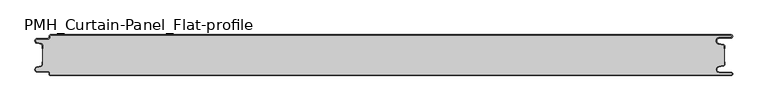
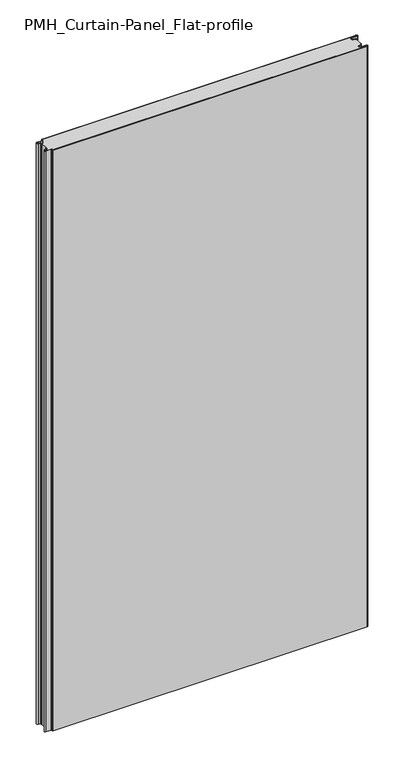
"""IFC4 building model written with IfcOpenShell, lengths in millimetres: plate geometry, PMH_Curtain-Panel_Flat-profile : ACH_PMH_Stone-wool-Panel_60M."""

from ifc_helpers import new_model, si_unit, point, frame, frame_2d, origin, origin_with_axes, place, context, project, spatial, polyline, circle_curve, trimmed, segment, composite_curve, outline, extrude, source, transform, mapped, element, save
from ifc_brep_helpers import plane_surface, cylinder_surface, revolved_surface, advanced_brep


def pmh_curtain_panel_flat_profile_a0c31ac1(model_context):
    return source(origin(), model_context, "Body", "SolidModel", [
        advanced_brep(
        [(508.1, 0.0, 1945.7507136), (-487.4, 0.0, 1945.7507136), (-489.4, -2.0, 1945.7507136), (-489.4, -3.4, 1945.7507136), (-491.4, -5.4, 1945.7507136), (-506.9, -5.4, 1945.7507136), (-507.7098239, -12.5077322, 1945.7507136), (-501.5500979, -13.929817, 1945.7507136), (-500.0, -15.878557, 1945.7507136), (-500.0, -20.0, 1945.7507136), (-499.2, -20.0, 1945.7507136), (-499.2, -15.878557, 1945.7507136), (-501.370137, -13.1503208, 1945.7507136), (-507.529863, -11.728236, 1945.7507136), (-506.9, -6.2, 1945.7507136), (-491.4, -6.2, 1945.7507136), (-488.6, -3.4, 1945.7507136), (-488.6, -2.0, 1945.7507136), (-487.4, -0.8, 1945.7507136), (508.1, -0.8, 1945.7507136), (508.1, -4.2, 1945.7507136), (491.1, -4.2, 1945.7507136), (490.2664884, -13.7270771, 1945.7507136), (496.7125669, -14.8636953, 1945.7507136), (498.2, -16.6363492, 1945.7507136), (498.2, -20.0, 1945.7507136), (499.0, -20.0, 1945.7507136), (499.0, -16.6363492, 1945.7507136), (496.8514855, -14.0758491, 1945.7507136), (490.405407, -12.939231, 1945.7507136), (491.1, -5.0, 1945.7507136), (508.1, -5.0, 1945.7507136), (510.6, -2.5000002, 1945.7507136), (-487.4, 0.0, 0.0), (508.1, 0.0, 0.0), (510.6, -2.4999998, 0.0), (508.1, -5.0, 0.0), (491.1, -5.0, 0.0), (490.405407, -12.939231, 0.0), (496.8514855, -14.0758491, 0.0), (499.0, -16.6363492, 0.0), (499.0, -20.0, 0.0), (498.2, -20.0, 0.0), (498.2, -16.6363492, 0.0), (496.7125669, -14.8636953, 0.0), (490.2664884, -13.7270771, 0.0), (491.1, -4.2, 0.0), (508.1, -4.2, 0.0), (508.1, -0.8, 0.0), (-487.4, -0.8, 0.0), (-488.6, -2.0, 0.0), (-488.6, -3.4, 0.0), (-491.4, -6.2, 0.0), (-506.9, -6.2, 0.0), (-507.529863, -11.7282362, 0.0), (-501.370137, -13.150321, 0.0), (-499.2, -15.878557, 0.0), (-499.2, -20.0, 0.0), (-500.0, -20.0, 0.0), (-500.0, -15.878557, 0.0), (-501.5500978, -13.9298169, 0.0), (-507.7098239, -12.507732, 0.0), (-506.9, -5.4, 0.0), (-491.4, -5.4, 0.0), (-489.4, -3.4, 0.0), (-489.4, -2.0, 0.0)],
        [
            (0, 1),
            (1, 2, circle_curve(frame((-487.4, -2.0, 1945.7507136), z_axis=(0.0, 0.0, 1.0), x_axis=(1.0, 0.0, 0.0)), 2.0)),
            (2, 3),
            (3, 4, circle_curve(frame((-491.4, -3.4, 1945.7507136), z_axis=(0.0, 0.0, -1.0), x_axis=(1.0, 0.0, 0.0)), 2.0)),
            (4, 5),
            (5, 6, circle_curve(frame((-506.9, -9.0, 1945.7507136), z_axis=(0.0, 0.0, 1.0), x_axis=(1.0, 0.0, 0.0)), 3.6)),
            (6, 7),
            (7, 8, circle_curve(frame((-502.0, -15.878557, 1945.7507136), z_axis=(0.0, 0.0, -1.0), x_axis=(1.0, 0.0, 0.0)), 2.0)),
            (8, 9),
            (9, 10),
            (10, 11),
            (11, 12, circle_curve(frame((-502.0, -15.878557, 1945.7507136), z_axis=(0.0, 0.0, 1.0), x_axis=(1.0, 0.0, 0.0)), 2.8)),
            (12, 13),
            (13, 14, circle_curve(frame((-506.9, -9.0, 1945.7507136), z_axis=(0.0, 0.0, -1.0), x_axis=(1.0, 0.0, 0.0)), 2.8)),
            (14, 15),
            (15, 16, circle_curve(frame((-491.4, -3.4, 1945.7507136), z_axis=(0.0, 0.0, 1.0), x_axis=(1.0, 0.0, 0.0)), 2.8)),
            (16, 17),
            (17, 18, circle_curve(frame((-487.4, -2.0, 1945.7507136), z_axis=(0.0, 0.0, -1.0), x_axis=(1.0, 0.0, 0.0)), 1.2)),
            (18, 19),
            (19, 20, circle_curve(frame((508.1, -2.5, 1945.7507136), z_axis=(0.0, 0.0, -1.0), x_axis=(1.0, 0.0, 0.0)), 1.7)),
            (20, 21),
            (21, 22, circle_curve(frame((491.1, -9.0, 1945.7507136), z_axis=(0.0, 0.0, 1.0), x_axis=(1.0, 0.0, 0.0)), 4.8)),
            (22, 23),
            (23, 24, circle_curve(frame((496.4, -16.6363492, 1945.7507136), z_axis=(0.0, 0.0, -1.0), x_axis=(1.0, 0.0, 0.0)), 1.8)),
            (24, 25),
            (25, 26),
            (26, 27),
            (27, 28, circle_curve(frame((496.4, -16.6363492, 1945.7507136), z_axis=(0.0, 0.0, 1.0), x_axis=(1.0, 0.0, 0.0)), 2.6)),
            (28, 29),
            (29, 30, circle_curve(frame((491.1, -9.0, 1945.7507136), z_axis=(0.0, 0.0, -1.0), x_axis=(1.0, 0.0, 0.0)), 4.0)),
            (30, 31),
            (31, 32, circle_curve(frame((508.1, -2.5, 1945.7507136), z_axis=(0.0, 0.0, 1.0), x_axis=(1.0, 0.0, 0.0)), 2.5)),
            (32, 0, circle_curve(frame((508.1, -2.5, 1945.7507136), z_axis=(0.0, 0.0, 1.0), x_axis=(1.0, 0.0, 0.0)), 2.5)),
            (33, 34),
            (34, 35, circle_curve(frame((508.1, -2.5, 0.0), z_axis=(0.0, 0.0, -1.0), x_axis=(1.0, 0.0, 0.0)), 2.5)),
            (35, 36, circle_curve(frame((508.1, -2.5, 0.0), z_axis=(0.0, 0.0, -1.0), x_axis=(1.0, 0.0, 0.0)), 2.5)),
            (36, 37),
            (37, 38, circle_curve(frame((491.1, -9.0, 0.0), z_axis=(0.0, 0.0, 1.0), x_axis=(1.0, 0.0, 0.0)), 4.0)),
            (38, 39),
            (39, 40, circle_curve(frame((496.4, -16.6363492, 0.0), z_axis=(0.0, 0.0, -1.0), x_axis=(1.0, 0.0, 0.0)), 2.6)),
            (40, 41),
            (41, 42),
            (42, 43),
            (43, 44, circle_curve(frame((496.4, -16.6363492, 0.0), z_axis=(0.0, 0.0, 1.0), x_axis=(1.0, 0.0, 0.0)), 1.8)),
            (44, 45),
            (45, 46, circle_curve(frame((491.1, -9.0, 0.0), z_axis=(0.0, 0.0, -1.0), x_axis=(1.0, 0.0, 0.0)), 4.8)),
            (46, 47),
            (47, 48, circle_curve(frame((508.1, -2.5, 0.0), z_axis=(0.0, 0.0, 1.0), x_axis=(1.0, 0.0, 0.0)), 1.7)),
            (48, 49),
            (49, 50, circle_curve(frame((-487.4, -2.0, 0.0), z_axis=(0.0, 0.0, 1.0), x_axis=(1.0, 0.0, 0.0)), 1.2)),
            (50, 51),
            (51, 52, circle_curve(frame((-491.4, -3.4, 0.0), z_axis=(0.0, 0.0, -1.0), x_axis=(1.0, 0.0, 0.0)), 2.8)),
            (52, 53),
            (53, 54, circle_curve(frame((-506.9, -9.0, 0.0), z_axis=(0.0, 0.0, 1.0), x_axis=(1.0, 0.0, 0.0)), 2.8)),
            (54, 55),
            (55, 56, circle_curve(frame((-502.0, -15.878557, 0.0), z_axis=(0.0, 0.0, -1.0), x_axis=(1.0, 0.0, 0.0)), 2.8)),
            (56, 57),
            (57, 58),
            (58, 59),
            (59, 60, circle_curve(frame((-502.0, -15.878557, 0.0), z_axis=(0.0, 0.0, 1.0), x_axis=(1.0, 0.0, 0.0)), 2.0)),
            (60, 61),
            (61, 62, circle_curve(frame((-506.9, -9.0, 0.0), z_axis=(0.0, 0.0, -1.0), x_axis=(1.0, 0.0, 0.0)), 3.6)),
            (62, 63),
            (63, 64, circle_curve(frame((-491.4, -3.4, 0.0), z_axis=(0.0, 0.0, 1.0), x_axis=(1.0, 0.0, 0.0)), 2.0)),
            (64, 65),
            (65, 33, circle_curve(frame((-487.4, -2.0, 0.0), z_axis=(0.0, 0.0, -1.0), x_axis=(1.0, 0.0, 0.0)), 2.0)),
            (1, 33),
            (65, 2),
            (64, 3),
            (63, 4),
            (62, 5),
            (61, 6),
            (60, 7),
            (59, 8),
            (58, 9),
            (57, 10),
            (56, 11),
            (55, 12),
            (54, 13),
            (53, 14),
            (52, 15),
            (51, 16),
            (50, 17),
            (49, 18),
            (48, 19),
            (47, 20),
            (46, 21),
            (45, 22),
            (44, 23),
            (43, 24),
            (42, 25),
            (41, 26),
            (40, 27),
            (39, 28),
            (38, 29),
            (37, 30),
            (36, 31),
            (34, 0),
        ],
        [
            plane_surface(frame((-500.0, 0.0, 1945.7507136), z_axis=(0.0, 0.0, 1.0), x_axis=(0.0, 1.0, 0.0))),
            plane_surface(frame((-500.0, 0.0, 0.0), z_axis=(0.0, 0.0, -1.0), x_axis=(0.0, 1.0, 0.0))),
            cylinder_surface(frame((-487.4, -2.0, 1945.7507136), z_axis=(0.0, 0.0, 1.0), x_axis=(1.0, 0.0, 0.0)), 2.0),
            plane_surface(frame((-489.4, -2.0, 1945.7507136), z_axis=(-1.0, 0.0, 0.0), x_axis=(0.0, 0.0, -1.0))),
            revolved_surface(polyline([(-489.4, -3.4, 0.0), (-489.4, -3.4, 1945.7507136)]), (-491.4, -3.4, 1945.7507136), (0.0, 0.0, -1.0)),
            plane_surface(frame((-491.4, -5.4, 1945.7507136), z_axis=(0.0, 1.0, 0.0), x_axis=(0.0, 0.0, -1.0))),
            cylinder_surface(frame((-506.9, -9.0, 1945.7507136), z_axis=(0.0, 0.0, 1.0), x_axis=(1.0, 0.0, 0.0)), 3.6),
            plane_surface(frame((-507.7098239, -12.507732, 1945.7507136), z_axis=(-0.2249510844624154, -0.9743700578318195, 0.0), x_axis=(0.0, 0.0, -1.0))),
            revolved_surface(polyline([(-500.0, -15.878557, 0.0), (-500.0, -15.878557, 1945.7507136)]), (-502.0, -15.878557, 1945.7507136), (0.0, 0.0, -1.0)),
            plane_surface(frame((-500.0, -15.878557, 1945.7507136), z_axis=(-1.0, 0.0, 0.0), x_axis=(0.0, 0.0, -1.0))),
            plane_surface(frame((-500.0, -20.0, 1945.7507136), z_axis=(0.0, -1.0, 0.0), x_axis=(0.0, 0.0, -1.0))),
            plane_surface(frame((-499.2, -20.0, 1945.7507136), z_axis=(1.0, 0.0, 0.0), x_axis=(0.0, 0.0, -1.0))),
            cylinder_surface(frame((-502.0, -15.878557, 1945.7507136), z_axis=(0.0, 0.0, 1.0), x_axis=(1.0, 0.0, 0.0)), 2.8),
            plane_surface(frame((-501.370137, -13.150321, 1945.7507136), z_axis=(0.22495108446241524, 0.9743700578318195, 0.0), x_axis=(0.0, 0.0, -1.0))),
            revolved_surface(polyline([(-504.09999999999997, -9.0, 0.0), (-504.09999999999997, -9.0, 1945.7507136)]), (-506.9, -9.0, 1945.7507136), (0.0, 0.0, -1.0)),
            plane_surface(frame((-506.9, -6.2, 1945.7507136), z_axis=(0.0, -1.0, 0.0), x_axis=(0.0, 0.0, -1.0))),
            cylinder_surface(frame((-491.4, -3.4, 1945.7507136), z_axis=(0.0, 0.0, 1.0), x_axis=(1.0, 0.0, 0.0)), 2.8),
            plane_surface(frame((-488.6, -3.4, 1945.7507136), z_axis=(1.0, 0.0, 0.0), x_axis=(0.0, 0.0, -1.0))),
            revolved_surface(polyline([(-486.2, -2.0, 0.0), (-486.2, -2.0, 1945.7507136)]), (-487.4, -2.0, 1945.7507136), (0.0, 0.0, -1.0)),
            plane_surface(frame((-487.4, -0.8, 1945.7507136), z_axis=(0.0, -1.0, 0.0), x_axis=(0.0, 0.0, -1.0))),
            revolved_surface(polyline([(509.8, -2.5, 0.0), (509.8, -2.5, 1945.7507136)]), (508.1, -2.5, 1945.7507136), (0.0, 0.0, -1.0)),
            plane_surface(frame((508.1, -4.2, 1945.7507136), z_axis=(0.0, 1.0, 0.0), x_axis=(0.0, 0.0, -1.0))),
            cylinder_surface(frame((491.1, -9.0, 1945.7507136), z_axis=(0.0, 0.0, 1.0), x_axis=(1.0, 0.0, 0.0)), 4.8),
            plane_surface(frame((490.2664884, -13.7270771, 1945.7507136), z_axis=(-0.17364826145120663, -0.984807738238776, 0.0), x_axis=(0.0, 0.0, -1.0))),
            revolved_surface(polyline([(498.2, -16.6363492, 0.0), (498.2, -16.6363492, 1945.7507136)]), (496.4, -16.6363492, 1945.7507136), (0.0, 0.0, -1.0)),
            plane_surface(frame((498.2, -16.6363492, 1945.7507136), z_axis=(-1.0, 0.0, 0.0), x_axis=(0.0, 0.0, -1.0))),
            plane_surface(frame((498.2, -20.0, 1945.7507136), z_axis=(0.0, -1.0, 0.0), x_axis=(0.0, 0.0, -1.0))),
            plane_surface(frame((499.0, -20.0, 1945.7507136), z_axis=(1.0, 0.0, 0.0), x_axis=(0.0, 0.0, -1.0))),
            cylinder_surface(frame((496.4, -16.6363492, 1945.7507136), z_axis=(0.0, 0.0, 1.0), x_axis=(1.0, 0.0, 0.0)), 2.6),
            plane_surface(frame((496.8514855, -14.0758491, 1945.7507136), z_axis=(0.17364826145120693, 0.9848077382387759, 0.0), x_axis=(0.0, 0.0, -1.0))),
            revolved_surface(polyline([(495.1, -9.0, 0.0), (495.1, -9.0, 1945.7507136)]), (491.1, -9.0, 1945.7507136), (0.0, 0.0, -1.0)),
            plane_surface(frame((491.1, -5.0, 1945.7507136), z_axis=(0.0, -1.0, 0.0), x_axis=(0.0, 0.0, -1.0))),
            cylinder_surface(frame((508.1, -2.5, 1945.7507136), z_axis=(0.0, 0.0, 1.0), x_axis=(1.0, 0.0, 0.0)), 2.5),
            plane_surface(frame((490.5783588, 0.0, 1945.7507136), z_axis=(0.0, 1.0, 0.0), x_axis=(0.0, 0.0, -1.0))),
        ],
        [
            (0, [[1, 2, 3, 4, 5, 6, 7, 8, 9, 10, 11, 12, 13, 14, 15, 16, 17, 18, 19, 20, 21, 22, 23, 24, 25, 26, 27, 28, 29, 30, 31, 32, 33]]),
            (1, [[34, 35, 36, 37, 38, 39, 40, 41, 42, 43, 44, 45, 46, 47, 48, 49, 50, 51, 52, 53, 54, 55, 56, 57, 58, 59, 60, 61, 62, 63, 64, 65, 66]]),
            (2, [[-2, 67, -66, 68]]),
            (3, [[-3, -68, -65, 69]]),
            (4, [[-4, -69, -64, 70]]),
            (5, [[-5, -70, -63, 71]]),
            (6, [[-6, -71, -62, 72]]),
            (7, [[-7, -72, -61, 73]]),
            (8, [[-8, -73, -60, 74]]),
            (9, [[-9, -74, -59, 75]]),
            (10, [[-10, -75, -58, 76]]),
            (11, [[-11, -76, -57, 77]]),
            (12, [[-12, -77, -56, 78]]),
            (13, [[-13, -78, -55, 79]]),
            (14, [[-14, -79, -54, 80]]),
            (15, [[-15, -80, -53, 81]]),
            (16, [[-16, -81, -52, 82]]),
            (17, [[-17, -82, -51, 83]]),
            (18, [[-18, -83, -50, 84]]),
            (19, [[-19, -84, -49, 85]]),
            (20, [[-20, -85, -48, 86]]),
            (21, [[-21, -86, -47, 87]]),
            (22, [[-22, -87, -46, 88]]),
            (23, [[-23, -88, -45, 89]]),
            (24, [[-24, -89, -44, 90]]),
            (25, [[-25, -90, -43, 91]]),
            (26, [[-26, -91, -42, 92]]),
            (27, [[-27, -92, -41, 93]]),
            (28, [[-28, -93, -40, 94]]),
            (29, [[-29, -94, -39, 95]]),
            (30, [[-30, -95, -38, 96]]),
            (31, [[-31, -96, -37, 97]]),
            (32, [[-97, -36, -35, 98, -33, -32]]),
            (33, [[-1, -98, -34, -67]]),
        ],
    ),
        extrude(outline(composite_curve([segment(polyline([(-499.2, -44.1214426), (-499.2, -15.8785573)]), True, "CONTINUOUS"), segment(trimmed(circle_curve(frame_2d((-502.0, -15.8785573)), 2.8), [point((-499.2, -15.8785573))], [point((-501.370137, -13.1503212))], True, "CARTESIAN"), True, "CONTINUOUS"), segment(polyline([(-501.370137, -13.1503212), (-507.5298631, -11.7282362)]), True, "CONTINUOUS"), segment(trimmed(circle_curve(frame_2d((-506.9, -9.0)), 2.8), [point((-507.5298631, -11.7282362))], [point((-506.9, -6.2))], False, "CARTESIAN"), True, "CONTINUOUS"), segment(polyline([(-506.9, -6.2), (-491.4000001, -6.2)]), True, "CONTINUOUS"), segment(trimmed(circle_curve(frame_2d((-491.4000001, -3.4)), 2.8), [point((-491.4000001, -6.2))], [point((-488.6000001, -3.4))], True, "CARTESIAN"), True, "CONTINUOUS"), segment(polyline([(-488.6000001, -3.4), (-488.6000001, -2.0)]), True, "CONTINUOUS"), segment(trimmed(circle_curve(frame_2d((-487.4000001, -2.0)), 1.2), [point((-488.6000001, -2.0))], [point((-487.4000001, -0.8))], False, "CARTESIAN"), True, "CONTINUOUS"), segment(polyline([(-487.4000001, -0.8), (508.1, -0.8)]), True, "CONTINUOUS"), segment(trimmed(circle_curve(frame_2d((508.1, -2.5)), 1.7), [point((508.1, -0.8))], [point((508.1, -4.2))], False, "CARTESIAN"), True, "CONTINUOUS"), segment(polyline([(508.1, -4.2), (491.1, -4.2)]), True, "CONTINUOUS"), segment(trimmed(circle_curve(frame_2d((491.1, -9.0)), 4.8), [point((491.1, -4.2))], [point((490.2664883, -13.7270771))], True, "CARTESIAN"), True, "CONTINUOUS"), segment(polyline([(490.2664883, -13.7270771), (496.7125668, -14.8636953)]), True, "CONTINUOUS"), segment(trimmed(circle_curve(frame_2d((496.4, -16.6363492)), 1.8), [point((496.7125668, -14.8636953))], [point((498.2, -16.6363492))], False, "CARTESIAN"), True, "CONTINUOUS"), segment(polyline([(498.2, -16.6363492), (498.2, -43.3636508)]), True, "CONTINUOUS"), segment(trimmed(circle_curve(frame_2d((496.4, -43.3636508)), 1.8), [point((498.2, -43.3636508))], [point((496.7125668, -45.1363047))], False, "CARTESIAN"), True, "CONTINUOUS"), segment(polyline([(496.7125668, -45.1363047), (490.2664883, -46.2729229)]), True, "CONTINUOUS"), segment(trimmed(circle_curve(frame_2d((491.1, -51.0)), 4.8), [point((490.2664883, -46.2729229))], [point((491.1, -55.8))], True, "CARTESIAN"), True, "CONTINUOUS"), segment(polyline([(491.1, -55.8), (508.1, -55.8)]), True, "CONTINUOUS"), segment(trimmed(circle_curve(frame_2d((508.1, -57.5)), 1.7), [point((508.1, -55.8))], [point((508.1, -59.2))], False, "CARTESIAN"), True, "CONTINUOUS"), segment(polyline([(508.1, -59.2), (-487.4000001, -59.2)]), True, "CONTINUOUS"), segment(trimmed(circle_curve(frame_2d((-487.4000001, -58.0)), 1.2), [point((-487.4000001, -59.2))], [point((-488.6000001, -58.0))], False, "CARTESIAN"), True, "CONTINUOUS"), segment(polyline([(-488.6000001, -58.0), (-488.6000001, -56.6)]), True, "CONTINUOUS"), segment(trimmed(circle_curve(frame_2d((-491.4000001, -56.6)), 2.8), [point((-488.6000001, -56.6))], [point((-491.4000001, -53.8))], True, "CARTESIAN"), True, "CONTINUOUS"), segment(polyline([(-491.4000001, -53.8), (-506.9, -53.8)]), True, "CONTINUOUS"), segment(trimmed(circle_curve(frame_2d((-506.9, -51.0)), 2.8), [point((-506.9, -53.8))], [point((-507.5298631, -48.2717638))], False, "CARTESIAN"), True, "CONTINUOUS"), segment(polyline([(-507.5298631, -48.2717638), (-501.370137, -46.8496788)]), True, "CONTINUOUS"), segment(trimmed(circle_curve(frame_2d((-502.0, -44.1214426)), 2.8), [point((-501.370137, -46.8496788))], [point((-499.2, -44.1214426))], True, "CARTESIAN"), True, "CONTINUOUS")], self_intersect=False)), origin_with_axes(), (0.0, 0.0, 1.0), 1945.7507136),
        advanced_brep(
        [(-487.4, -60.0, 1945.7507136), (508.1, -60.0, 1945.7507136), (510.6, -57.5000002, 1945.7507136), (508.1, -55.0, 1945.7507136), (491.1, -55.0, 1945.7507136), (490.405407, -47.060769, 1945.7507136), (496.8514855, -45.9241509, 1945.7507136), (499.0, -43.3636508, 1945.7507136), (499.0, -40.0, 1945.7507136), (498.2, -40.0, 1945.7507136), (498.2, -43.3636508, 1945.7507136), (496.7125669, -45.1363047, 1945.7507136), (490.2664884, -46.2729229, 1945.7507136), (491.1, -55.8, 1945.7507136), (508.1, -55.8, 1945.7507136), (508.1, -59.2, 1945.7507136), (-487.4, -59.2, 1945.7507136), (-488.6, -58.0, 1945.7507136), (-488.6, -56.6, 1945.7507136), (-491.4, -53.8, 1945.7507136), (-506.9, -53.8, 1945.7507136), (-507.529863, -48.2717638, 1945.7507136), (-501.370137, -46.849679, 1945.7507136), (-499.2, -44.121443, 1945.7507136), (-499.2, -40.0, 1945.7507136), (-500.0, -40.0, 1945.7507136), (-500.0, -44.121443, 1945.7507136), (-501.5500978, -46.0701831, 1945.7507136), (-507.7098239, -47.492268, 1945.7507136), (-506.9, -54.6, 1945.7507136), (-491.4, -54.6, 1945.7507136), (-489.4, -56.6, 1945.7507136), (-489.4, -58.0, 1945.7507136), (508.1, -60.0, 0.0), (-487.4, -60.0, 0.0), (-489.4, -58.0, 0.0), (-489.4, -56.6, 0.0), (-491.4, -54.6, 0.0), (-506.9, -54.6, 0.0), (-507.7098239, -47.4922678, 0.0), (-501.5500979, -46.070183, 0.0), (-500.0, -44.121443, 0.0), (-500.0, -40.0, 0.0), (-499.2, -40.0, 0.0), (-499.2, -44.121443, 0.0), (-501.370137, -46.8496792, 0.0), (-507.529863, -48.271764, 0.0), (-506.9, -53.8, 0.0), (-491.4, -53.8, 0.0), (-488.6, -56.6, 0.0), (-488.6, -58.0, 0.0), (-487.4, -59.2, 0.0), (508.1, -59.2, 0.0), (508.1, -55.8, 0.0), (491.1, -55.8, 0.0), (490.2664884, -46.2729229, 0.0), (496.7125669, -45.1363047, 0.0), (498.2, -43.3636508, 0.0), (498.2, -40.0, 0.0), (499.0, -40.0, 0.0), (499.0, -43.3636508, 0.0), (496.8514855, -45.9241509, 0.0), (490.405407, -47.060769, 0.0), (491.1, -55.0, 0.0), (508.1, -55.0, 0.0), (510.6, -57.4999998, 0.0)],
        [
            (0, 1),
            (1, 2, circle_curve(frame((508.1, -57.5, 1945.7507136), z_axis=(0.0, 0.0, 1.0), x_axis=(1.0, 0.0, 0.0)), 2.5)),
            (2, 3, circle_curve(frame((508.1, -57.5, 1945.7507136), z_axis=(0.0, 0.0, 1.0), x_axis=(1.0, 0.0, 0.0)), 2.5)),
            (3, 4),
            (4, 5, circle_curve(frame((491.1, -51.0, 1945.7507136), z_axis=(0.0, 0.0, -1.0), x_axis=(1.0, 0.0, 0.0)), 4.0)),
            (5, 6),
            (6, 7, circle_curve(frame((496.4, -43.3636508, 1945.7507136), z_axis=(0.0, 0.0, 1.0), x_axis=(1.0, 0.0, 0.0)), 2.6)),
            (7, 8),
            (8, 9),
            (9, 10),
            (10, 11, circle_curve(frame((496.4, -43.3636508, 1945.7507136), z_axis=(0.0, 0.0, -1.0), x_axis=(1.0, 0.0, 0.0)), 1.8)),
            (11, 12),
            (12, 13, circle_curve(frame((491.1, -51.0, 1945.7507136), z_axis=(0.0, 0.0, 1.0), x_axis=(1.0, 0.0, 0.0)), 4.8)),
            (13, 14),
            (14, 15, circle_curve(frame((508.1, -57.5, 1945.7507136), z_axis=(0.0, 0.0, -1.0), x_axis=(1.0, 0.0, 0.0)), 1.7)),
            (15, 16),
            (16, 17, circle_curve(frame((-487.4, -58.0, 1945.7507136), z_axis=(0.0, 0.0, -1.0), x_axis=(1.0, 0.0, 0.0)), 1.2)),
            (17, 18),
            (18, 19, circle_curve(frame((-491.4, -56.6, 1945.7507136), z_axis=(0.0, 0.0, 1.0), x_axis=(1.0, 0.0, 0.0)), 2.8)),
            (19, 20),
            (20, 21, circle_curve(frame((-506.9, -51.0, 1945.7507136), z_axis=(0.0, 0.0, -1.0), x_axis=(1.0, 0.0, 0.0)), 2.8)),
            (21, 22),
            (22, 23, circle_curve(frame((-502.0, -44.121443, 1945.7507136), z_axis=(0.0, 0.0, 1.0), x_axis=(1.0, 0.0, 0.0)), 2.8)),
            (23, 24),
            (24, 25),
            (25, 26),
            (26, 27, circle_curve(frame((-502.0, -44.121443, 1945.7507136), z_axis=(0.0, 0.0, -1.0), x_axis=(1.0, 0.0, 0.0)), 2.0)),
            (27, 28),
            (28, 29, circle_curve(frame((-506.9, -51.0, 1945.7507136), z_axis=(0.0, 0.0, 1.0), x_axis=(1.0, 0.0, 0.0)), 3.6)),
            (29, 30),
            (30, 31, circle_curve(frame((-491.4, -56.6, 1945.7507136), z_axis=(0.0, 0.0, -1.0), x_axis=(1.0, 0.0, 0.0)), 2.0)),
            (31, 32),
            (32, 0, circle_curve(frame((-487.4, -58.0, 1945.7507136), z_axis=(0.0, 0.0, 1.0), x_axis=(1.0, 0.0, 0.0)), 2.0)),
            (33, 34),
            (34, 35, circle_curve(frame((-487.4, -58.0, 0.0), z_axis=(0.0, 0.0, -1.0), x_axis=(1.0, 0.0, 0.0)), 2.0)),
            (35, 36),
            (36, 37, circle_curve(frame((-491.4, -56.6, 0.0), z_axis=(0.0, 0.0, 1.0), x_axis=(1.0, 0.0, 0.0)), 2.0)),
            (37, 38),
            (38, 39, circle_curve(frame((-506.9, -51.0, 0.0), z_axis=(0.0, 0.0, -1.0), x_axis=(1.0, 0.0, 0.0)), 3.6)),
            (39, 40),
            (40, 41, circle_curve(frame((-502.0, -44.121443, 0.0), z_axis=(0.0, 0.0, 1.0), x_axis=(1.0, 0.0, 0.0)), 2.0)),
            (41, 42),
            (42, 43),
            (43, 44),
            (44, 45, circle_curve(frame((-502.0, -44.121443, 0.0), z_axis=(0.0, 0.0, -1.0), x_axis=(1.0, 0.0, 0.0)), 2.8)),
            (45, 46),
            (46, 47, circle_curve(frame((-506.9, -51.0, 0.0), z_axis=(0.0, 0.0, 1.0), x_axis=(1.0, 0.0, 0.0)), 2.8)),
            (47, 48),
            (48, 49, circle_curve(frame((-491.4, -56.6, 0.0), z_axis=(0.0, 0.0, -1.0), x_axis=(1.0, 0.0, 0.0)), 2.8)),
            (49, 50),
            (50, 51, circle_curve(frame((-487.4, -58.0, 0.0), z_axis=(0.0, 0.0, 1.0), x_axis=(1.0, 0.0, 0.0)), 1.2)),
            (51, 52),
            (52, 53, circle_curve(frame((508.1, -57.5, 0.0), z_axis=(0.0, 0.0, 1.0), x_axis=(1.0, 0.0, 0.0)), 1.7)),
            (53, 54),
            (54, 55, circle_curve(frame((491.1, -51.0, 0.0), z_axis=(0.0, 0.0, -1.0), x_axis=(1.0, 0.0, 0.0)), 4.8)),
            (55, 56),
            (56, 57, circle_curve(frame((496.4, -43.3636508, 0.0), z_axis=(0.0, 0.0, 1.0), x_axis=(1.0, 0.0, 0.0)), 1.8)),
            (57, 58),
            (58, 59),
            (59, 60),
            (60, 61, circle_curve(frame((496.4, -43.3636508, 0.0), z_axis=(0.0, 0.0, -1.0), x_axis=(1.0, 0.0, 0.0)), 2.6)),
            (61, 62),
            (62, 63, circle_curve(frame((491.1, -51.0, 0.0), z_axis=(0.0, 0.0, 1.0), x_axis=(1.0, 0.0, 0.0)), 4.0)),
            (63, 64),
            (64, 65, circle_curve(frame((508.1, -57.5, 0.0), z_axis=(0.0, 0.0, -1.0), x_axis=(1.0, 0.0, 0.0)), 2.5)),
            (65, 33, circle_curve(frame((508.1, -57.5, 0.0), z_axis=(0.0, 0.0, -1.0), x_axis=(1.0, 0.0, 0.0)), 2.5)),
            (0, 34),
            (33, 1),
            (64, 3),
            (63, 4),
            (62, 5),
            (61, 6),
            (60, 7),
            (59, 8),
            (58, 9),
            (57, 10),
            (56, 11),
            (55, 12),
            (54, 13),
            (53, 14),
            (52, 15),
            (51, 16),
            (50, 17),
            (49, 18),
            (48, 19),
            (47, 20),
            (46, 21),
            (45, 22),
            (44, 23),
            (43, 24),
            (42, 25),
            (41, 26),
            (40, 27),
            (39, 28),
            (38, 29),
            (37, 30),
            (36, 31),
            (35, 32),
        ],
        [
            plane_surface(frame((-500.0, -60.0, 1945.7507136), z_axis=(0.0, 0.0, 1.0), x_axis=(0.0, 1.0, 0.0))),
            plane_surface(frame((-500.0, -60.0, 0.0), z_axis=(0.0, 0.0, -1.0), x_axis=(0.0, 1.0, 0.0))),
            plane_surface(frame((490.5783588, -60.0, 1945.7507136), z_axis=(0.0, -1.0, 0.0), x_axis=(0.0, 0.0, -1.0))),
            cylinder_surface(frame((508.1, -57.5, 1945.7507136), z_axis=(0.0, 0.0, 1.0), x_axis=(1.0, 0.0, 0.0)), 2.5),
            plane_surface(frame((508.1, -55.0, 1945.7507136), z_axis=(0.0, 1.0, 0.0), x_axis=(0.0, 0.0, -1.0))),
            revolved_surface(polyline([(495.1, -51.0, 0.0), (495.1, -51.0, 1945.7507136)]), (491.1, -51.0, 1945.7507136), (0.0, 0.0, -1.0)),
            plane_surface(frame((490.405407, -47.060769, 1945.7507136), z_axis=(0.17364826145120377, -0.9848077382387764, 0.0), x_axis=(0.0, 0.0, -1.0))),
            cylinder_surface(frame((496.4, -43.3636508, 1945.7507136), z_axis=(0.0, 0.0, 1.0), x_axis=(1.0, 0.0, 0.0)), 2.6),
            plane_surface(frame((499.0, -43.3636508, 1945.7507136), z_axis=(1.0, 0.0, 0.0), x_axis=(0.0, 0.0, -1.0))),
            plane_surface(frame((499.0, -40.0, 1945.7507136), z_axis=(0.0, 1.0, 0.0), x_axis=(0.0, 0.0, -1.0))),
            plane_surface(frame((498.2, -40.0, 1945.7507136), z_axis=(-1.0, 0.0, 0.0), x_axis=(0.0, 0.0, -1.0))),
            revolved_surface(polyline([(498.2, -43.3636508, 0.0), (498.2, -43.3636508, 1945.7507136)]), (496.4, -43.3636508, 1945.7507136), (0.0, 0.0, -1.0)),
            plane_surface(frame((496.7125669, -45.1363047, 1945.7507136), z_axis=(-0.17364826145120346, 0.9848077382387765, 0.0), x_axis=(0.0, 0.0, -1.0))),
            cylinder_surface(frame((491.1, -51.0, 1945.7507136), z_axis=(0.0, 0.0, 1.0), x_axis=(1.0, 0.0, 0.0)), 4.8),
            plane_surface(frame((491.1, -55.8, 1945.7507136), z_axis=(0.0, -1.0, 0.0), x_axis=(0.0, 0.0, -1.0))),
            revolved_surface(polyline([(509.8, -57.5, 0.0), (509.8, -57.5, 1945.7507136)]), (508.1, -57.5, 1945.7507136), (0.0, 0.0, -1.0)),
            plane_surface(frame((508.1, -59.2, 1945.7507136), z_axis=(0.0, 1.0, 0.0), x_axis=(0.0, 0.0, -1.0))),
            revolved_surface(polyline([(-486.2, -58.0, 0.0), (-486.2, -58.0, 1945.7507136)]), (-487.4, -58.0, 1945.7507136), (0.0, 0.0, -1.0)),
            plane_surface(frame((-488.6, -58.0, 1945.7507136), z_axis=(1.0, 0.0, 0.0), x_axis=(0.0, 0.0, -1.0))),
            cylinder_surface(frame((-491.4, -56.6, 1945.7507136), z_axis=(0.0, 0.0, 1.0), x_axis=(1.0, 0.0, 0.0)), 2.8),
            plane_surface(frame((-491.4, -53.8, 1945.7507136), z_axis=(0.0, 1.0, 0.0), x_axis=(0.0, 0.0, -1.0))),
            revolved_surface(polyline([(-504.09999999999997, -51.0, 0.0), (-504.09999999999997, -51.0, 1945.7507136)]), (-506.9, -51.0, 1945.7507136), (0.0, 0.0, -1.0)),
            plane_surface(frame((-507.529863, -48.271764, 1945.7507136), z_axis=(0.2249510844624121, -0.9743700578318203, 0.0), x_axis=(0.0, 0.0, -1.0))),
            cylinder_surface(frame((-502.0, -44.121443, 1945.7507136), z_axis=(0.0, 0.0, 1.0), x_axis=(1.0, 0.0, 0.0)), 2.8),
            plane_surface(frame((-499.2, -44.121443, 1945.7507136), z_axis=(1.0, 0.0, 0.0), x_axis=(0.0, 0.0, -1.0))),
            plane_surface(frame((-499.2, -40.0, 1945.7507136), z_axis=(0.0, 1.0, 0.0), x_axis=(0.0, 0.0, -1.0))),
            plane_surface(frame((-500.0, -40.0, 1945.7507136), z_axis=(-1.0, 0.0, 0.0), x_axis=(0.0, 0.0, -1.0))),
            revolved_surface(polyline([(-500.0, -44.121443, 0.0), (-500.0, -44.121443, 1945.7507136)]), (-502.0, -44.121443, 1945.7507136), (0.0, 0.0, -1.0)),
            plane_surface(frame((-501.5500979, -46.070183, 1945.7507136), z_axis=(-0.22495108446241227, 0.9743700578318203, 0.0), x_axis=(0.0, 0.0, -1.0))),
            cylinder_surface(frame((-506.9, -51.0, 1945.7507136), z_axis=(0.0, 0.0, 1.0), x_axis=(1.0, 0.0, 0.0)), 3.6),
            plane_surface(frame((-506.9, -54.6, 1945.7507136), z_axis=(0.0, -1.0, 0.0), x_axis=(0.0, 0.0, -1.0))),
            revolved_surface(polyline([(-489.4, -56.6, 0.0), (-489.4, -56.6, 1945.7507136)]), (-491.4, -56.6, 1945.7507136), (0.0, 0.0, -1.0)),
            plane_surface(frame((-489.4, -56.6, 1945.7507136), z_axis=(-1.0, 0.0, 0.0), x_axis=(0.0, 0.0, -1.0))),
            cylinder_surface(frame((-487.4, -58.0, 1945.7507136), z_axis=(0.0, 0.0, 1.0), x_axis=(1.0, 0.0, 0.0)), 2.0),
        ],
        [
            (0, [[1, 2, 3, 4, 5, 6, 7, 8, 9, 10, 11, 12, 13, 14, 15, 16, 17, 18, 19, 20, 21, 22, 23, 24, 25, 26, 27, 28, 29, 30, 31, 32, 33]]),
            (1, [[34, 35, 36, 37, 38, 39, 40, 41, 42, 43, 44, 45, 46, 47, 48, 49, 50, 51, 52, 53, 54, 55, 56, 57, 58, 59, 60, 61, 62, 63, 64, 65, 66]]),
            (2, [[-1, 67, -34, 68]]),
            (3, [[-68, -66, -65, 69, -3, -2]]),
            (4, [[-4, -69, -64, 70]]),
            (5, [[-5, -70, -63, 71]]),
            (6, [[-6, -71, -62, 72]]),
            (7, [[-7, -72, -61, 73]]),
            (8, [[-8, -73, -60, 74]]),
            (9, [[-9, -74, -59, 75]]),
            (10, [[-10, -75, -58, 76]]),
            (11, [[-11, -76, -57, 77]]),
            (12, [[-12, -77, -56, 78]]),
            (13, [[-13, -78, -55, 79]]),
            (14, [[-14, -79, -54, 80]]),
            (15, [[-15, -80, -53, 81]]),
            (16, [[-16, -81, -52, 82]]),
            (17, [[-17, -82, -51, 83]]),
            (18, [[-18, -83, -50, 84]]),
            (19, [[-19, -84, -49, 85]]),
            (20, [[-20, -85, -48, 86]]),
            (21, [[-21, -86, -47, 87]]),
            (22, [[-22, -87, -46, 88]]),
            (23, [[-23, -88, -45, 89]]),
            (24, [[-24, -89, -44, 90]]),
            (25, [[-25, -90, -43, 91]]),
            (26, [[-26, -91, -42, 92]]),
            (27, [[-27, -92, -41, 93]]),
            (28, [[-28, -93, -40, 94]]),
            (29, [[-29, -94, -39, 95]]),
            (30, [[-30, -95, -38, 96]]),
            (31, [[-31, -96, -37, 97]]),
            (32, [[-32, -97, -36, 98]]),
            (33, [[-33, -98, -35, -67]]),
        ],
    ),
    ])


if __name__ == "__main__":
    model = new_model("IFC4")
    model_context = context("Model", 3, world=origin())
    ifc_project = project(units=[si_unit("LENGTHUNIT", "METRE", prefix="MILLI")], contexts=[model_context])
    site = spatial("IfcSite", under=ifc_project)
    building = spatial("IfcBuilding", under=site)
    placement = place(None, origin())
    pmh_curtain_panel_flat_profile_shape = pmh_curtain_panel_flat_profile_a0c31ac1(model_context)
    element("IfcPlate", 1, ObjectType="PMH_Curtain-Panel_Flat-profile : ACH_PMH_Stone-wool-Panel_60M", at=placement, inside=building, context=model_context, shape_type="MappedRepresentation", body=[
        mapped(pmh_curtain_panel_flat_profile_shape, transform((0.0, 0.0, 0.0), x_axis=(1.0, 0.0, 0.0), y_axis=(0.0, 1.0, 0.0), z_axis=(0.0, 0.0, 1.0))),
    ])
    save(model, "model.ifc")
